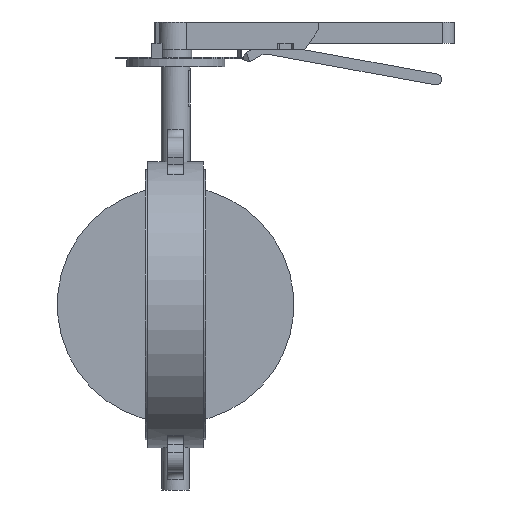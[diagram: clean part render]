
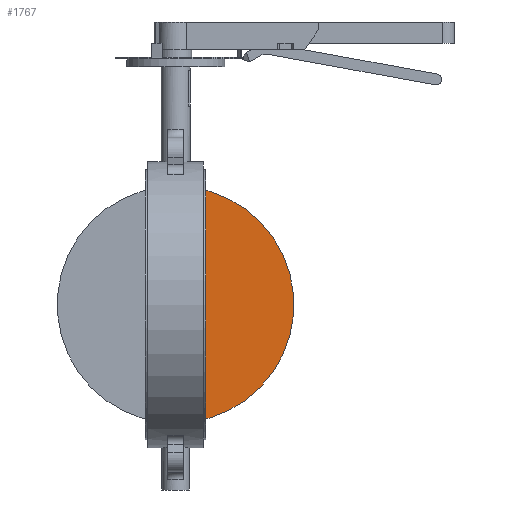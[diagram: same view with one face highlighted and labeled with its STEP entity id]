
A CAD part, front view. The second image highlights one B-rep face of the part: STEP entity #1767.
In plain terms, the highlighted planar face has unit normal (0, -1, 0).
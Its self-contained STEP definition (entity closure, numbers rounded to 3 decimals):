
#1767=ADVANCED_FACE('',(#3245),#3247,.T.);
#3245=FACE_BOUND('',#3246,.T.);
#3246=EDGE_LOOP('',(#4292,#4293));
#3247=PLANE('',#3248);
#3248=AXIS2_PLACEMENT_3D('',#3249,#3250,#3251);
#3249=CARTESIAN_POINT('',(0.,-2.5,0.));
#3250=DIRECTION('',(0.,-1.,0.));
#3251=DIRECTION('',(0.,0.,1.));
#4292=ORIENTED_EDGE('',*,*,#4805,.T.);
#4293=ORIENTED_EDGE('',*,*,#4813,.T.);
#4805=EDGE_CURVE('',#5661,#5658,#5662,.T.);
#4813=EDGE_CURVE('',#5658,#5661,#5675,.T.);
#5658=VERTEX_POINT('',#8634);
#5661=VERTEX_POINT('',#8648);
#5662=LINE('',#8649,#8650);
#5675=CIRCLE('',#8706,150.75);
#8634=CARTESIAN_POINT('',(17.321,-2.5,-149.752));
#8648=CARTESIAN_POINT('',(17.321,-2.5,149.752));
#8649=CARTESIAN_POINT('',(17.321,-2.5,149.752));
#8650=VECTOR('',#8651,1.);
#8651=DIRECTION('',(0.,0.,-1.));
#8706=AXIS2_PLACEMENT_3D('',#8707,#8708,#8709);
#8707=CARTESIAN_POINT('',(0.,-2.5,0.));
#8708=DIRECTION('',(0.,-1.,0.));
#8709=DIRECTION('',(0.115,0.,-0.993));
